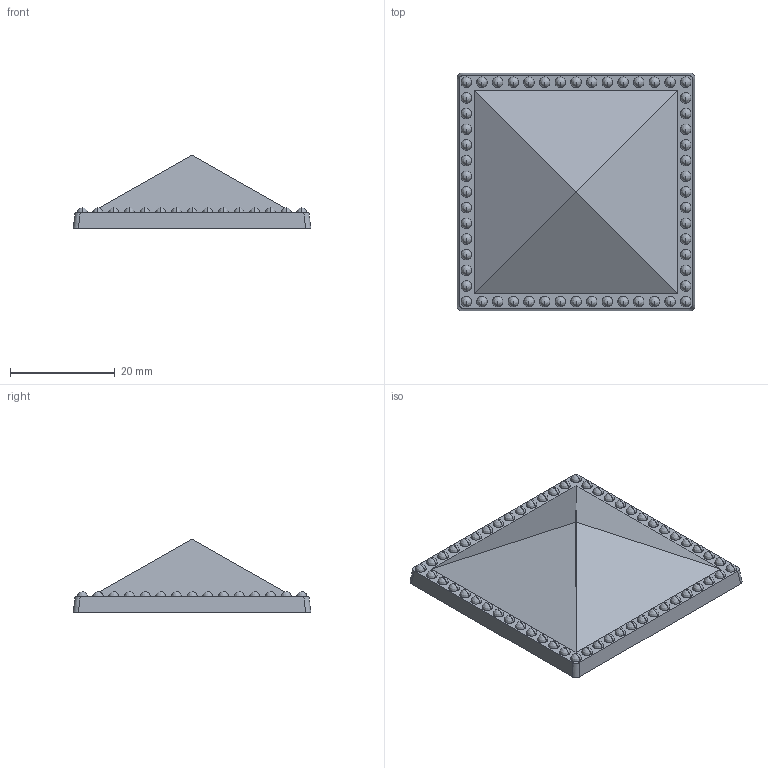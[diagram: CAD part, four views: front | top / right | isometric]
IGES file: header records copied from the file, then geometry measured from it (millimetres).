
Start section: C
Global section: file name: 8019.igs; native system: By Siemens PLM Incorporated; preprocessor: XPlus GENERIC/IGES 16.0.42; author: Author; organization: Title; date: 20231128.141521; units: millimetre
Bounding box: 45.5 x 45.5 x 14 mm (x, y, z)
Surface area: 5564.3 mm2 (no closed solid volume)
Topology: 0 solids, 0 shells, 78 faces, 488 edges, 432 vertices
Faces by surface type: bspline 78
